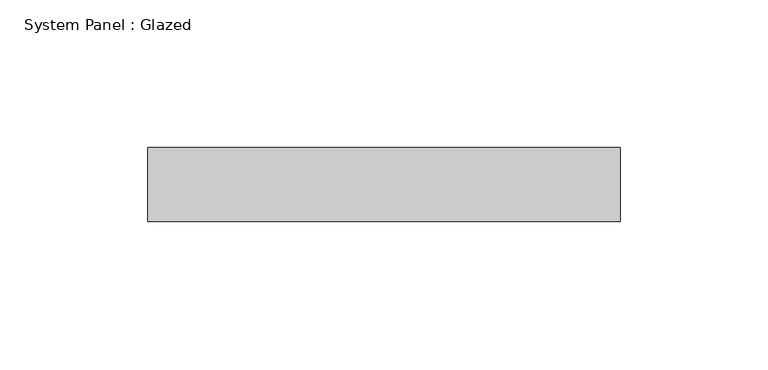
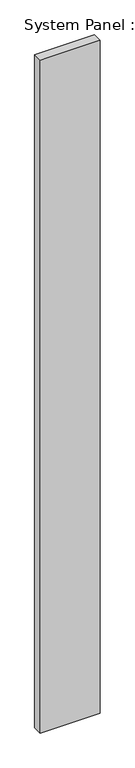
"""IFC4 building model written with IfcOpenShell, lengths in millimetres: plate geometry, System Panel : Glazed."""

from ifc_helpers import new_model, si_unit, origin, origin_with_axes, place, context, project, spatial, polyline, outline, extrude, source, transform, mapped, element, save


def system_panel_glazed_6436783a(model_context):
    return source(origin(), model_context, "Body", "SweptSolid", [
        extrude(outline(polyline([(80.0, -12.5), (-80.0, -12.5), (-80.0, 12.5), (80.0, 12.5), (80.0, -12.5)])), origin_with_axes(), (0.0, 0.0, 1.0), 1900.0),
    ])


if __name__ == "__main__":
    model = new_model("IFC4")
    model_context = context("Model", 3, world=origin())
    ifc_project = project(units=[si_unit("LENGTHUNIT", "METRE", prefix="MILLI")], contexts=[model_context])
    site = spatial("IfcSite", under=ifc_project)
    building = spatial("IfcBuilding", under=site)
    placement = place(None, origin())
    system_panel_glazed_shape = system_panel_glazed_6436783a(model_context)
    element("IfcPlate", 1, ObjectType="System Panel : Glazed", at=placement, inside=building, context=model_context, shape_type="MappedRepresentation", body=[
        mapped(system_panel_glazed_shape, transform((0.0, 0.0, 0.0), x_axis=(1.0, 0.0, 0.0), y_axis=(0.0, 1.0, 0.0), z_axis=(0.0, 0.0, 1.0))),
    ])
    save(model, "model.ifc")
